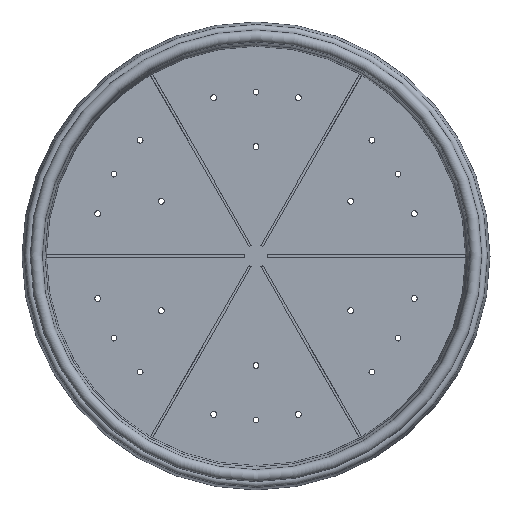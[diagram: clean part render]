
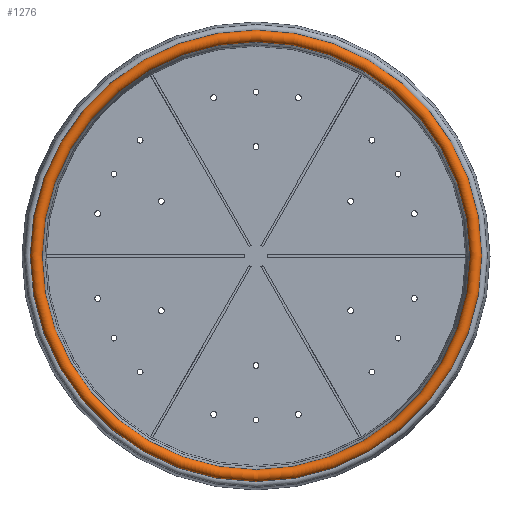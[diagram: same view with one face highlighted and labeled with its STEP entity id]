
A CAD part, top view. The second image highlights one B-rep face of the part: STEP entity #1276.
In plain terms, the highlighted toroidal (fillet/blend) face has major radius 186 mm and minor radius 5 mm.
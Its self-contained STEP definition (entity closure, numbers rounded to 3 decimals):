
#18=TOROIDAL_SURFACE('',#1441,186.,5.);
#154=FACE_OUTER_BOUND('',#245,.T.);
#245=EDGE_LOOP('',(#1097,#1098,#1099,#1100));
#522=CIRCLE('',#1440,189.83);
#523=CIRCLE('',#1442,181.);
#524=CIRCLE('',#1443,5.);
#643=VERTEX_POINT('',#2201);
#644=VERTEX_POINT('',#2205);
#810=EDGE_CURVE('',#643,#643,#522,.T.);
#812=EDGE_CURVE('',#644,#644,#523,.T.);
#813=EDGE_CURVE('',#644,#643,#524,.T.);
#1097=ORIENTED_EDGE('',*,*,#812,.F.);
#1098=ORIENTED_EDGE('',*,*,#813,.T.);
#1099=ORIENTED_EDGE('',*,*,#810,.T.);
#1100=ORIENTED_EDGE('',*,*,#813,.F.);
#1276=ADVANCED_FACE('',(#154),#18,.T.);
#1440=AXIS2_PLACEMENT_3D('',#2202,#1821,#1822);
#1441=AXIS2_PLACEMENT_3D('',#2204,#1824,#1825);
#1442=AXIS2_PLACEMENT_3D('',#2206,#1826,#1827);
#1443=AXIS2_PLACEMENT_3D('',#2207,#1828,#1829);
#1821=DIRECTION('center_axis',(0.,0.,1.));
#1822=DIRECTION('ref_axis',(1.,0.,0.));
#1824=DIRECTION('center_axis',(0.,0.,1.));
#1825=DIRECTION('ref_axis',(1.,0.,0.));
#1826=DIRECTION('center_axis',(0.,0.,1.));
#1827=DIRECTION('ref_axis',(1.,0.,0.));
#1828=DIRECTION('center_axis',(0.,-1.,0.));
#1829=DIRECTION('ref_axis',(-1.,0.,0.));
#2201=CARTESIAN_POINT('',(-189.83,0.,91.786));
#2202=CARTESIAN_POINT('Origin',(0.,0.,91.786));
#2204=CARTESIAN_POINT('Origin',(0.,0.,95.));
#2205=CARTESIAN_POINT('',(-181.,0.,95.));
#2206=CARTESIAN_POINT('Origin',(0.,0.,95.));
#2207=CARTESIAN_POINT('Origin',(-186.,0.,
95.));
